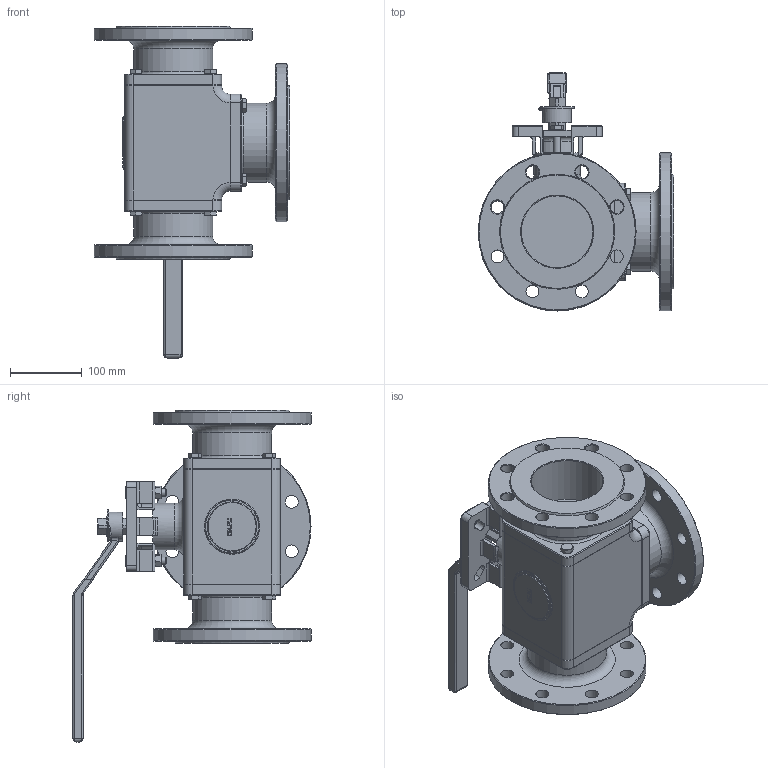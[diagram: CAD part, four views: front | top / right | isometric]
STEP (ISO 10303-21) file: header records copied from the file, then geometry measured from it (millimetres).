
FILE_DESCRIPTION(('STEP AP242'), '1');
FILE_NAME('BV3232P(4pc)-FP-3WT-F-ISO-H Êðàí øàðîâîé DN.ru Äó100 Ðó16', '', ('UNSPECIFIED'), ('UNSPECIFIED'), 'C3D Converter', 'C3D Toolkit', '');
FILE_SCHEMA(('AP242_MANAGED_MODEL_BASED_3D_ENGINEERING_MIM_LF { 1 0 10303 442 1 1 4 }'));
Length unit declared in the file: millimetre
Products named in the file (1): BV3232P(4pc)-FP-3WT-F-ISO-H
Bounding box: 272.5 x 331.62 x 462.5 mm (x, y, z)
Volume: 6275743.3 mm3; surface area: 683271.7 mm2
Topology: 1 solids, 14 shells, 931 faces, 2282 edges, 1418 vertices
Faces by surface type: plane 461, cylinder 220, cone 146, bspline 62, torus 42
Full cylindrical faces by diameter (mm): 1.336 x1, 1.364 x1, 2 x1, 10 x28, 11 x14, 16 x14, 18 x24, 30 x3, 40 x1, 65 x1, 69 x1, 100 x3, 110 x3, 220 x3
Entity records: 45485 total; most frequent: CARTESIAN_POINT 19972, ORIENTED_EDGE 4260, DIRECTION 4202, EDGE_CURVE 2130, AXIS2_PLACEMENT_3D 1614, VERTEX_POINT 1418, EDGE_LOOP 1238, FACE_BOUND 1027
